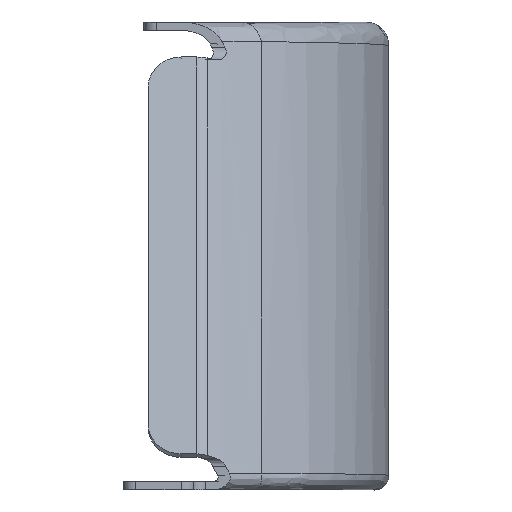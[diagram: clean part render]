
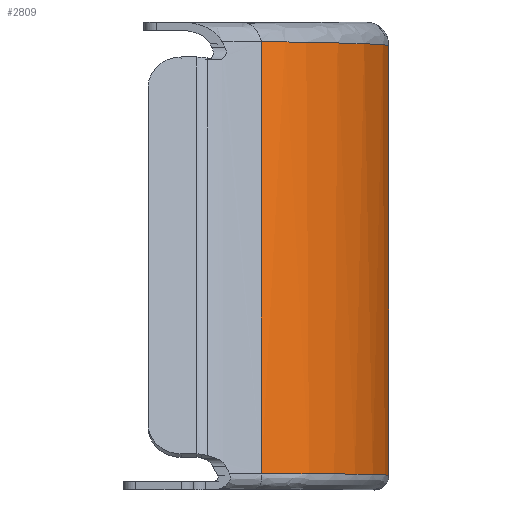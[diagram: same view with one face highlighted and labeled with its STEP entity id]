
A CAD part, left-side view. The second image highlights one B-rep face of the part: STEP entity #2809.
In plain terms, the highlighted cylindrical face has radius 100 mm (diameter 200 mm), a partial arc.
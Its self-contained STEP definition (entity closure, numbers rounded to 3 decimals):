
#2791=AXIS2_PLACEMENT_3D('Cylinder Axis2P3D',#2788,#2789,#2790) ;
#337=CARTESIAN_POINT('Vertex',(1126.196,-744.979,43.535)) ;
#2034=CARTESIAN_POINT('Vertex',(1174.432,-744.979,147.043)) ;
#2150=CARTESIAN_POINT('Control Point',(1046.896,-714.283,44.038)) ;
#2151=CARTESIAN_POINT('Control Point',(1052.125,-719.227,44.007)) ;
#2152=CARTESIAN_POINT('Control Point',(1057.778,-723.723,43.973)) ;
#2153=CARTESIAN_POINT('Control Point',(1063.788,-727.737,43.937)) ;
#2154=CARTESIAN_POINT('Control Point',(1079.044,-736.24,43.843)) ;
#2155=CARTESIAN_POINT('Control Point',(1095.679,-741.739,43.738)) ;
#2156=CARTESIAN_POINT('Control Point',(1105.749,-743.899,43.672)) ;
#2157=CARTESIAN_POINT('Control Point',(1115.971,-744.979,43.605)) ;
#2158=CARTESIAN_POINT('Control Point',(1126.196,-744.979,43.535)) ;
#2159=CARTESIAN_POINT('Vertex',(1046.896,-714.283,44.038)) ;
#2279=CARTESIAN_POINT('Vertex',(1095.337,-714.283,147.982)) ;
#2283=CARTESIAN_POINT('Control Point',(1174.432,-744.979,147.043)) ;
#2284=CARTESIAN_POINT('Control Point',(1164.371,-744.979,147.152)) ;
#2285=CARTESIAN_POINT('Control Point',(1154.304,-743.929,147.265)) ;
#2286=CARTESIAN_POINT('Control Point',(1144.372,-741.826,147.378)) ;
#2287=CARTESIAN_POINT('Control Point',(1127.767,-736.4,147.574)) ;
#2288=CARTESIAN_POINT('Control Point',(1112.494,-727.949,147.762)) ;
#2289=CARTESIAN_POINT('Control Point',(1106.387,-723.885,147.839)) ;
#2290=CARTESIAN_POINT('Control Point',(1100.645,-719.319,147.913)) ;
#2291=CARTESIAN_POINT('Control Point',(1095.337,-714.283,147.982)) ;
#2788=CARTESIAN_POINT('Axis2P3D Location',(1140.204,-644.979,73.594)) ;
#2793=CARTESIAN_POINT('Line Origine',(1140.204,-744.979,73.594)) ;
#2798=CARTESIAN_POINT('Line Origine',(1074.861,-714.283,104.045)) ;
#2789=DIRECTION('Axis2P3D Direction',(-0.422,0.,-0.906)) ;
#2790=DIRECTION('Axis2P3D XDirection',(0.,-1.,0.)) ;
#2794=DIRECTION('Vector Direction',(-0.422,0.,-0.906)) ;
#2799=DIRECTION('Vector Direction',(-0.422,0.,-0.906)) ;
#2795=VECTOR('Line Direction',#2794,1.) ;
#2800=VECTOR('Line Direction',#2799,1.) ;
#2804=ORIENTED_EDGE('',*,*,#2161,.F.) ;
#2805=ORIENTED_EDGE('',*,*,#2797,.T.) ;
#2806=ORIENTED_EDGE('',*,*,#2292,.F.) ;
#2807=ORIENTED_EDGE('',*,*,#2802,.F.) ;
#2809=ADVANCED_FACE('\X2\51E04F554F53\X0\.76',(#2808),#2792,.T.) ;
#2149=B_SPLINE_CURVE_WITH_KNOTS('',5,(#2150,#2151,#2152,#2153,#2154,#2155,#2156,#2157,#2158),.UNSPECIFIED.,.F.,.U.,(6,3,6),(66.393,116.567,187.826),.UNSPECIFIED.) ;
#2282=B_SPLINE_CURVE_WITH_KNOTS('',5,(#2283,#2284,#2285,#2286,#2287,#2288,#2289,#2290,#2291),.UNSPECIFIED.,.F.,.U.,(6,3,6),(185.067,254.574,304.744),.UNSPECIFIED.) ;
#2792=CYLINDRICAL_SURFACE('generated cylinder',#2791,100.) ;
#2161=EDGE_CURVE('',#338,#2160,#2149,.F.) ;
#2292=EDGE_CURVE('',#2280,#2035,#2282,.F.) ;
#2797=EDGE_CURVE('',#338,#2035,#2796,.F.) ;
#2802=EDGE_CURVE('',#2160,#2280,#2801,.F.) ;
#2803=EDGE_LOOP('',(#2804,#2805,#2806,#2807)) ;
#2808=FACE_OUTER_BOUND('',#2803,.T.) ;
#2796=LINE('Line',#2793,#2795) ;
#2801=LINE('Line',#2798,#2800) ;
#338=VERTEX_POINT('',#337) ;
#2035=VERTEX_POINT('',#2034) ;
#2160=VERTEX_POINT('',#2159) ;
#2280=VERTEX_POINT('',#2279) ;
